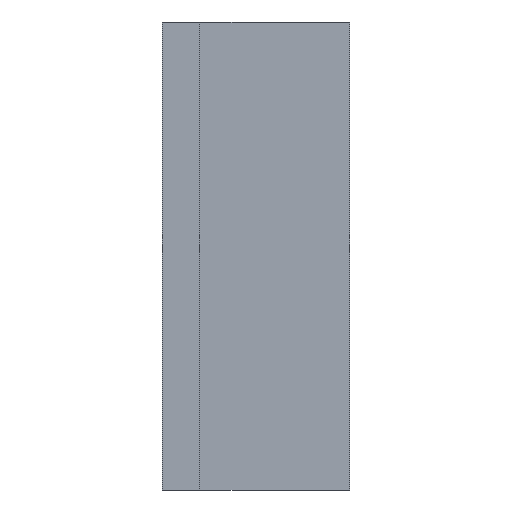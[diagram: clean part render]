
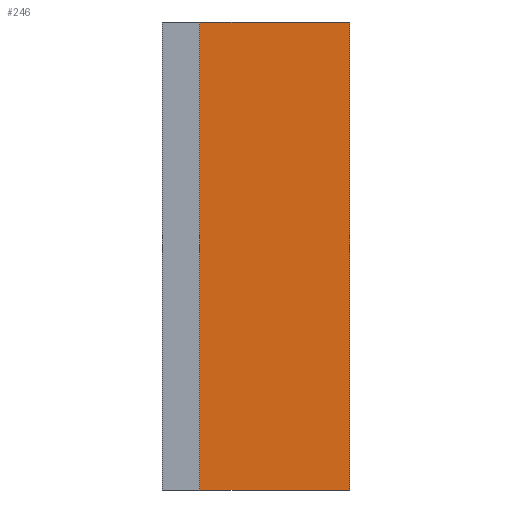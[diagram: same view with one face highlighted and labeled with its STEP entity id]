
A CAD part, left-side view. The second image highlights one B-rep face of the part: STEP entity #246.
In plain terms, the highlighted planar face has unit normal (-1, 0, 0).
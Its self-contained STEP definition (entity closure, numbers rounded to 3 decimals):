
#20=FACE_OUTER_BOUND('',#33,.T.);
#33=EDGE_LOOP('',(#182,#183,#184,#185));
#55=LINE('',#380,#88);
#57=LINE('',#384,#90);
#58=LINE('',#386,#91);
#59=LINE('',#387,#92);
#88=VECTOR('',#313,10.);
#90=VECTOR('',#317,10.);
#91=VECTOR('',#318,10.);
#92=VECTOR('',#319,10.);
#117=VERTEX_POINT('',#377);
#118=VERTEX_POINT('',#379);
#119=VERTEX_POINT('',#383);
#120=VERTEX_POINT('',#385);
#143=EDGE_CURVE('',#118,#117,#55,.T.);
#145=EDGE_CURVE('',#117,#119,#57,.T.);
#146=EDGE_CURVE('',#120,#119,#58,.T.);
#147=EDGE_CURVE('',#120,#118,#59,.T.);
#182=ORIENTED_EDGE('',*,*,#145,.T.);
#183=ORIENTED_EDGE('',*,*,#146,.F.);
#184=ORIENTED_EDGE('',*,*,#147,.T.);
#185=ORIENTED_EDGE('',*,*,#143,.T.);
#233=PLANE('',#279);
#246=ADVANCED_FACE('',(#20),#233,.T.);
#279=AXIS2_PLACEMENT_3D('',#382,#315,#316);
#313=DIRECTION('',(0.,0.,1.));
#315=DIRECTION('center_axis',(-1.,0.,0.));
#316=DIRECTION('ref_axis',(0.,0.,1.));
#317=DIRECTION('',(0.,1.,0.));
#318=DIRECTION('',(0.,0.,1.));
#319=DIRECTION('',(0.,-1.,0.));
#377=CARTESIAN_POINT('',(-4.452,0.,100.));
#379=CARTESIAN_POINT('',(-4.452,0.,0.));
#380=CARTESIAN_POINT('',(-4.452,0.,0.));
#382=CARTESIAN_POINT('Origin',(-4.452,0.,0.));
#383=CARTESIAN_POINT('',(-4.452,32.,100.));
#384=CARTESIAN_POINT('',(-4.452,32.,100.));
#385=CARTESIAN_POINT('',(-4.452,32.,0.));
#386=CARTESIAN_POINT('',(-4.452,32.,0.));
#387=CARTESIAN_POINT('',(-4.452,32.,0.));
